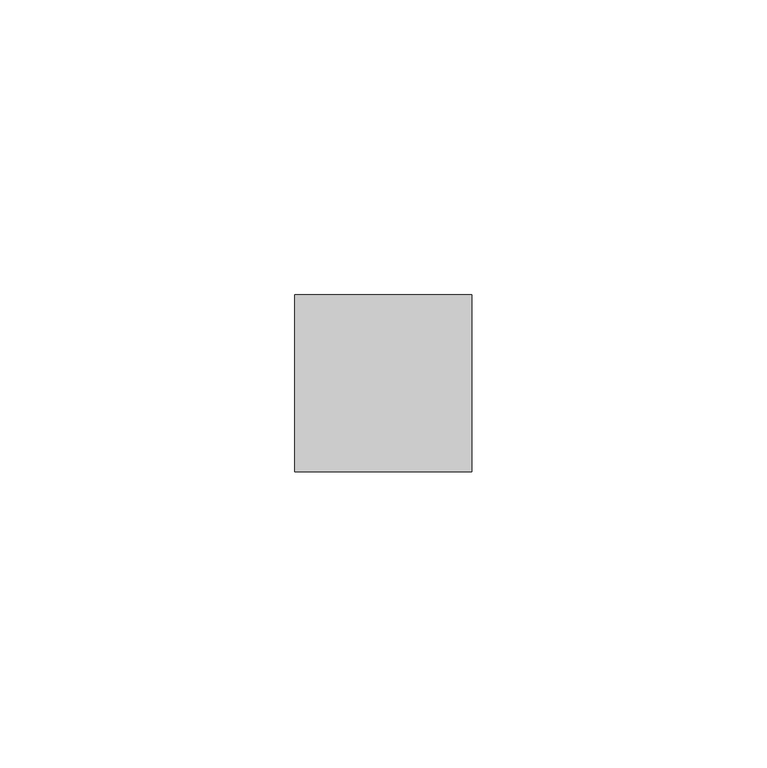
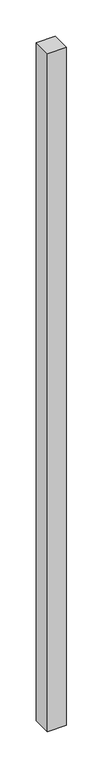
"""IFC4 building model written with IfcOpenShell, lengths in millimetres: member geometry, 矩形竖梃 : 30mm 正方形."""

from ifc_helpers import new_model, si_unit, frame, origin, place, context, project, spatial, polyline, outline, extrude, source, transform, mapped, element, save


def member_6a4487dd(model_context):
    return source(origin(), model_context, "Body", "SweptSolid", [
        extrude(outline(polyline([(0.0, 15.0), (0.0, -15.0), (-30.0, -15.0), (-30.0, 15.0), (0.0, 15.0)])), frame((0.0, 0.0, -1135.0), z_axis=(0.0, 0.0, 1.0), x_axis=(1.0, 0.0, 0.0)), (0.0, 0.0, 1.0), 1135.0),
    ])


if __name__ == "__main__":
    model = new_model("IFC4")
    model_context = context("Model", 3, world=origin())
    ifc_project = project(units=[si_unit("LENGTHUNIT", "METRE", prefix="MILLI")], contexts=[model_context])
    site = spatial("IfcSite", under=ifc_project)
    building = spatial("IfcBuilding", under=site)
    placement = place(None, origin())
    member_shape = member_6a4487dd(model_context)
    element("IfcMember", 1, ObjectType="矩形竖梃 : 30mm 正方形", at=placement, inside=building, context=model_context, shape_type="MappedRepresentation", body=[
        mapped(member_shape, transform((0.0, 0.0, 0.0), x_axis=(1.0, 0.0, 0.0), y_axis=(0.0, 1.0, 0.0), z_axis=(0.0, 0.0, 1.0))),
    ])
    save(model, "model.ifc")
